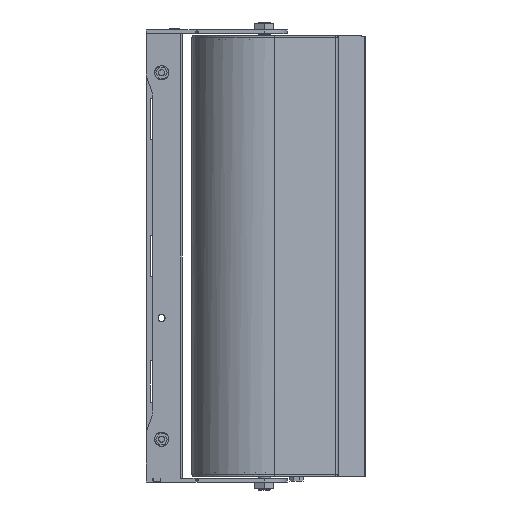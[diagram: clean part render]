
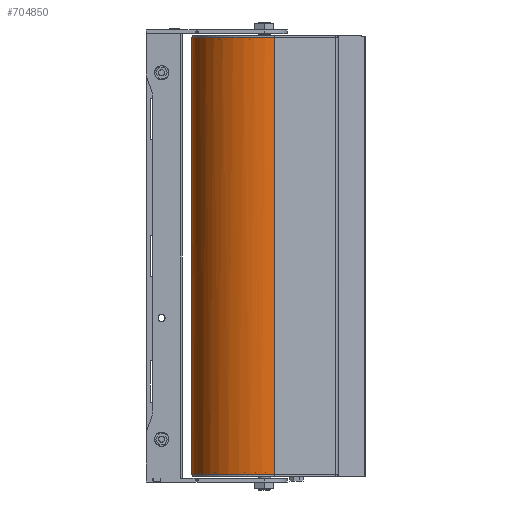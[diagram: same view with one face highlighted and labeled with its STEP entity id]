
A CAD part, left-side view. The second image highlights one B-rep face of the part: STEP entity #704850.
In plain terms, the highlighted free-form (B-spline) face has degree [3, 1] with [7, 2] control points.
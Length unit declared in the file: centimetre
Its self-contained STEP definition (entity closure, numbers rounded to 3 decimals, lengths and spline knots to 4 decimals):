
#704300 = CARTESIAN_POINT ('', (-169.7774, 465.3866, -346.1878));
#704310 = VERTEX_POINT ('', #704300);
#704320 = CARTESIAN_POINT ('', (-169.7774, 465.3866, 213.5122));
#704330 = VERTEX_POINT ('', #704320);
#704340 = CARTESIAN_POINT ('', (-169.7774, 465.3866, -346.1878));
#704350 = CARTESIAN_POINT ('', (-169.7774, 465.3866, 213.5122));
#704360 = B_SPLINE_CURVE_WITH_KNOTS ('', 1, (#704340, #704350), .UNSPECIFIED., .F., .U., (2, 2), (0., 1.), .UNSPECIFIED.);
#704370 = EDGE_CURVE ('', #704310, #704330, #704360, .T.);
#704380 = ORIENTED_EDGE ('', *, *, #704370, .T.);
#704390 = CARTESIAN_POINT ('', (-353.7001, 465.3866, 213.5122));
#704400 = VERTEX_POINT ('', #704390);
#704410 = CARTESIAN_POINT ('', (-169.7774, 465.3866, 213.5122));
#704420 = CARTESIAN_POINT ('', (-161.4185, 525.3686, 213.5122));
#704430 = CARTESIAN_POINT ('', (-201.177, 571.0521, 213.5122));
#704440 = CARTESIAN_POINT ('', (-261.7388, 571.0521, 213.5122));
#704450 = CARTESIAN_POINT ('', (-322.3005, 571.0521, 213.5122));
#704460 = CARTESIAN_POINT ('', (-362.059, 525.3686, 213.5122));
#704470 = CARTESIAN_POINT ('', (-353.7001, 465.3866, 213.5122));
#704480 = (
   BOUNDED_CURVE ()
   B_SPLINE_CURVE (3, (#704410, #704420, #704430, #704440, #704450, #704460, #704470), .UNSPECIFIED., .F., .U.)
   B_SPLINE_CURVE_WITH_KNOTS ((4, 3, 4), (0., 0.5, 1.), .UNSPECIFIED.)
   CURVE ()
   GEOMETRIC_REPRESENTATION_ITEM ()
   RATIONAL_B_SPLINE_CURVE ((1., 0.771, 0.771, 1., 0.771, 0.771, 1.))
   REPRESENTATION_ITEM ('')
);
#704490 = EDGE_CURVE ('', #704330, #704400, #704480, .T.);
#704500 = ORIENTED_EDGE ('', *, *, #704490, .T.);
#704510 = CARTESIAN_POINT ('', (-353.7001, 465.3866, -346.1878));
#704520 = VERTEX_POINT ('', #704510);
#704530 = CARTESIAN_POINT ('', (-353.7001, 465.3866, 213.5122));
#704540 = CARTESIAN_POINT ('', (-353.7001, 465.3866, -346.1878));
#704550 = B_SPLINE_CURVE_WITH_KNOTS ('', 1, (#704530, #704540), .UNSPECIFIED., .F., .U., (2, 2), (0., 1.), .UNSPECIFIED.);
#704560 = EDGE_CURVE ('', #704400, #704520, #704550, .T.);
#704570 = ORIENTED_EDGE ('', *, *, #704560, .T.);
#704580 = CARTESIAN_POINT ('', (-353.7001, 465.3866, -346.1878));
#704590 = CARTESIAN_POINT ('', (-362.059, 525.3686, -346.1878));
#704600 = CARTESIAN_POINT ('', (-322.3005, 571.0521, -346.1878));
#704610 = CARTESIAN_POINT ('', (-261.7388, 571.0521, -346.1878));
#704620 = CARTESIAN_POINT ('', (-201.177, 571.0521, -346.1878));
#704630 = CARTESIAN_POINT ('', (-161.4185, 525.3686, -346.1878));
#704640 = CARTESIAN_POINT ('', (-169.7774, 465.3866, -346.1878));
#704650 = (
   BOUNDED_CURVE ()
   B_SPLINE_CURVE (3, (#704580, #704590, #704600, #704610, #704620, #704630, #704640), .UNSPECIFIED., .F., .U.)
   B_SPLINE_CURVE_WITH_KNOTS ((4, 3, 4), (0., 0.5, 1.), .UNSPECIFIED.)
   CURVE ()
   GEOMETRIC_REPRESENTATION_ITEM ()
   RATIONAL_B_SPLINE_CURVE ((1., 0.771, 0.771, 1., 0.771, 0.771, 1.))
   REPRESENTATION_ITEM ('')
);
#704660 = EDGE_CURVE ('', #704520, #704310, #704650, .T.);
#704670 = ORIENTED_EDGE ('', *, *, #704660, .T.);
#704680 = EDGE_LOOP ('', (#704380, #704500, #704570, #704670));
#704690 = FACE_OUTER_BOUND ('', #704680, .T.);
#704700 = CARTESIAN_POINT ('', (-353.7001, 465.3866, -346.1878));
#704710 = CARTESIAN_POINT ('', (-353.7001, 465.3866, 213.5122));
#704720 = CARTESIAN_POINT ('', (-362.059, 525.3686, -346.1878));
#704730 = CARTESIAN_POINT ('', (-362.059, 525.3686, 213.5122));
#704740 = CARTESIAN_POINT ('', (-322.3005, 571.0521, -346.1878));
#704750 = CARTESIAN_POINT ('', (-322.3005, 571.0521, 213.5122));
#704760 = CARTESIAN_POINT ('', (-261.7388, 571.0521, -346.1878));
#704770 = CARTESIAN_POINT ('', (-261.7388, 571.0521, 213.5122));
#704780 = CARTESIAN_POINT ('', (-201.177, 571.0521, -346.1878));
#704790 = CARTESIAN_POINT ('', (-201.177, 571.0521, 213.5122));
#704800 = CARTESIAN_POINT ('', (-161.4185, 525.3686, -346.1878));
#704810 = CARTESIAN_POINT ('', (-161.4185, 525.3686, 213.5122));
#704820 = CARTESIAN_POINT ('', (-169.7774, 465.3866, -346.1878));
#704830 = CARTESIAN_POINT ('', (-169.7774, 465.3866, 213.5122));
#704840 = (
   BOUNDED_SURFACE ()
   B_SPLINE_SURFACE (3, 1, ((#704700, #704710), (#704720, #704730), (#704740, #704750), (#704760, #704770), (#704780, #704790), (#704800, #704810), (#704820, #704830)), .UNSPECIFIED., .F., .F., .U.)
   B_SPLINE_SURFACE_WITH_KNOTS ((4, 3, 4), (2, 2), (0., 0.5, 1.), (0., 1.), .UNSPECIFIED.)
   SURFACE ()
   GEOMETRIC_REPRESENTATION_ITEM ()
   RATIONAL_B_SPLINE_SURFACE (((1., 1.), (0.771, 0.771), (0.771, 0.771), (1., 1.), (0.771, 0.771), (0.771, 0.771), (1., 1.)))
   REPRESENTATION_ITEM ('')
);
#704850 = ADVANCED_FACE ('', (#704690), #704840, .T.);
